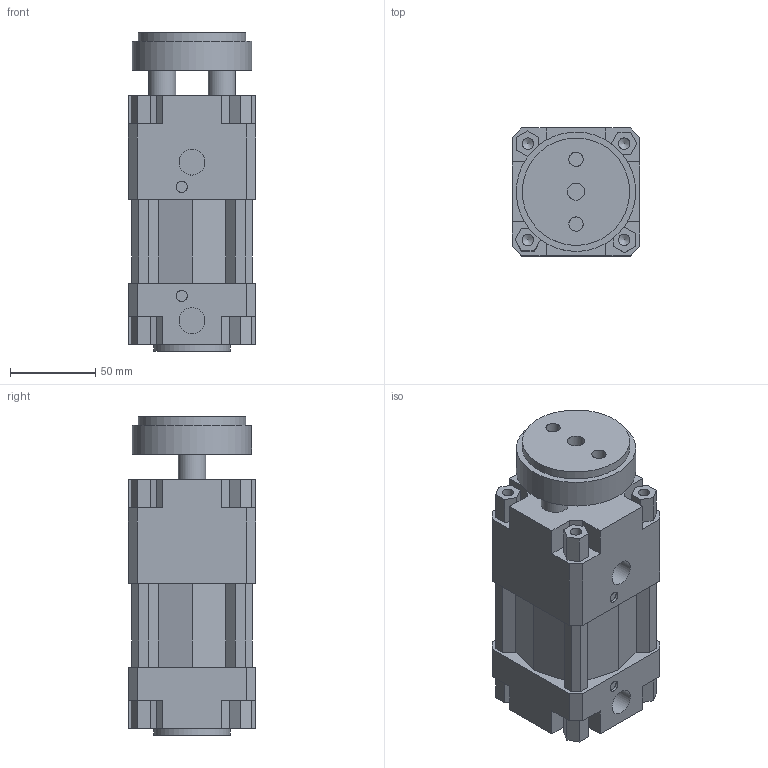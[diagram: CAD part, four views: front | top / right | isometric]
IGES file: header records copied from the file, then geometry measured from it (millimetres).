
Global section: file name: 134#_063_0000_01; native system: Autodesk Inventor 2014; preprocessor: unknown; author: A. Manieri; date: 20161006.165053; units: millimetre
Bounding box: 75 x 75 x 187 mm (x, y, z)
Volume: 803407.6 mm3; surface area: 125093.2 mm2
Topology: 2 solids, 2 shells, 180 faces, 491 edges, 335 vertices
Faces by surface type: bspline 180
